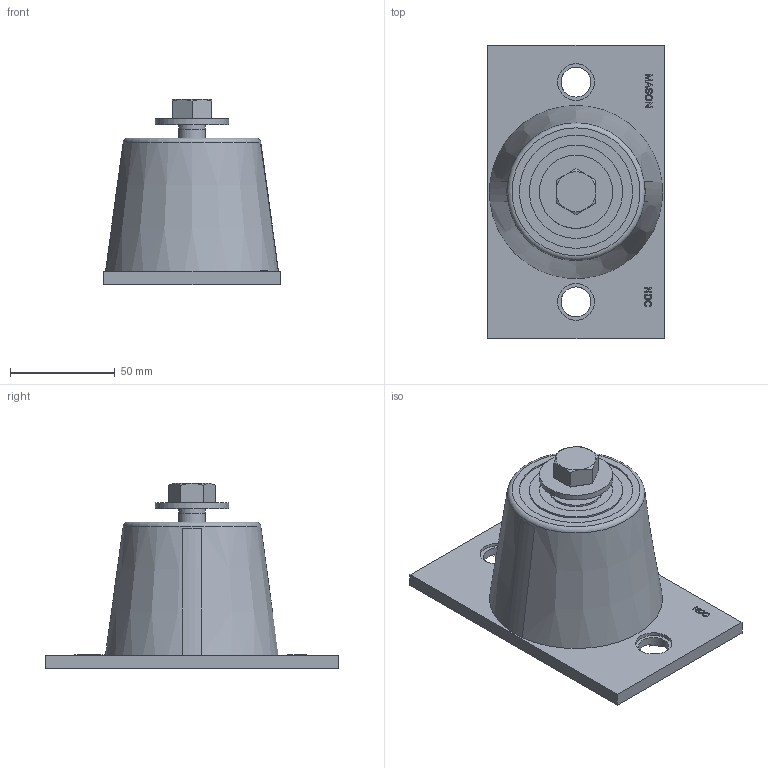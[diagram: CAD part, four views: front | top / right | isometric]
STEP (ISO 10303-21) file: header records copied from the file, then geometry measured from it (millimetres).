
FILE_DESCRIPTION((''),'2;1');
FILE_NAME('C:\2012_Work\Designs\ND\ND-C\A-1012-2 NDC MOUNT-GREEN.stp','2013-09-11T09:53:34',('KShiels'),(''),'Autodesk Inventor 2012','Autodesk Inventor 2012','');
FILE_SCHEMA(('AUTOMOTIVE_DESIGN { 1 0 10303 214 1 1 1 1 }'));
Length unit declared in the file: inch
Products named in the file (6): A-1012-2 NDC MOUNT-GREEN; A-1012-2 NDC RUBBER-GREEN; A-1014-3 NDC TOP PLATE; ANSI B18.22.1 - 1_2 - wide - Type A_NDC; ANSI_ASME B18.2.1 - 1_2-13 UNC - 1(2)_NDC; A-1013-4 NDC BASE PLATE
Assembly tree (5 placements, depth 2):
  A-1012-2 NDC MOUNT-GREEN
    A-1012-2 NDC RUBBER-GREEN
    A-1014-3 NDC TOP PLATE
    ANSI B18.22.1 - 1_2 - wide - Type A_NDC
    ANSI_ASME B18.2.1 - 1_2-13 UNC - 1(2)_NDC
    A-1013-4 NDC BASE PLATE
Bounding box: 84.14 x 139.7 x 88.21 mm (x, y, z)
Volume: 322552.3 mm3; surface area: 77967.5 mm2
Topology: 5 solids, 5 shells, 362 faces, 934 edges, 620 vertices
Faces by surface type: plane 274, bspline 54, cylinder 20, cone 12, torus 2
Full cylindrical faces by diameter (mm): 10.592 x1, 12.7 x1, 14.275 x1, 14.288 x2, 15.478 x2, 15.875 x1, 17.463 x2, 19.05 x1, 25.4 x1, 34.925 x2, 38.1 x1, 41.275 x2, 44.45 x1, 53.975 x1, 61.913 x1
Entity records: 11406 total; most frequent: CARTESIAN_POINT 2809, ORIENTED_EDGE 1798, DIRECTION 1502, EDGE_CURVE 899, VECTOR 686, LINE 686, VERTEX_POINT 611, EDGE_LOOP 442
